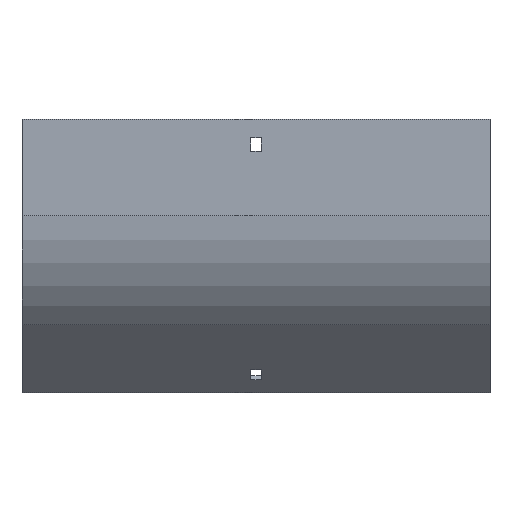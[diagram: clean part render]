
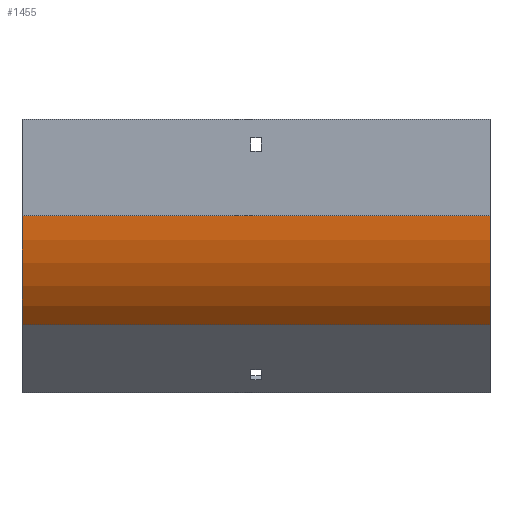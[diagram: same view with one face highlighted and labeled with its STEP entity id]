
A CAD part, front view. The second image highlights one B-rep face of the part: STEP entity #1455.
In plain terms, the highlighted cylindrical face has radius 100 mm (diameter 200 mm), a partial arc.
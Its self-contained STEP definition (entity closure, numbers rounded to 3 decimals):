
#116 = AXIS2_PLACEMENT_3D ( 'NONE', #1498, #1658, #1795 ) ;
#121 = ORIENTED_EDGE ( 'NONE', *, *, #342, .F. ) ;
#264 = CIRCLE ( 'NONE', #1364, 100. ) ;
#297 = LINE ( 'NONE', #1663, #1059 ) ;
#304 = CARTESIAN_POINT ( 'NONE',  ( 152., -49.711, -133.434 ) ) ;
#334 = CIRCLE ( 'NONE', #1918, 100. ) ;
#342 = EDGE_CURVE ( 'NONE', #1022, #564, #297, .T. ) ;
#422 = DIRECTION ( 'NONE',  ( -1., 0., 0. ) ) ;
#441 = EDGE_CURVE ( 'NONE', #739, #1022, #264, .T. ) ;
#489 = CARTESIAN_POINT ( 'NONE',  ( 152., 21., -62.723 ) ) ;
#523 = EDGE_LOOP ( 'NONE', ( #1606, #121, #540, #686 ) ) ;
#540 = ORIENTED_EDGE ( 'NONE', *, *, #441, .F. ) ;
#564 = VERTEX_POINT ( 'NONE', #1275 ) ;
#624 = CYLINDRICAL_SURFACE ( 'NONE', #116, 100. ) ;
#680 = DIRECTION ( 'NONE',  ( 1., 0., 0. ) ) ;
#686 = ORIENTED_EDGE ( 'NONE', *, *, #907, .T. ) ;
#739 = VERTEX_POINT ( 'NONE', #922 ) ;
#858 = VERTEX_POINT ( 'NONE', #1679 ) ;
#907 = EDGE_CURVE ( 'NONE', #739, #858, #1445, .T. ) ;
#922 = CARTESIAN_POINT ( 'NONE',  ( 152., -79., -62.723 ) ) ;
#1022 = VERTEX_POINT ( 'NONE', #304 ) ;
#1059 = VECTOR ( 'NONE', #422, 1000. ) ;
#1275 = CARTESIAN_POINT ( 'NONE',  ( -152., -49.711, -133.434 ) ) ;
#1303 = EDGE_CURVE ( 'NONE', #858, #564, #334, .T. ) ;
#1364 = AXIS2_PLACEMENT_3D ( 'NONE', #489, #1704, #1369 ) ;
#1369 = DIRECTION ( 'NONE',  ( 0., 0., 1. ) ) ;
#1435 = DIRECTION ( 'NONE',  ( -1., 0., 0. ) ) ;
#1445 = LINE ( 'NONE', #1737, #1715 ) ;
#1455 = ADVANCED_FACE ( 'NONE', ( #1815 ), #624, .T. ) ;
#1474 = CARTESIAN_POINT ( 'NONE',  ( -152., 21., -62.723 ) ) ;
#1498 = CARTESIAN_POINT ( 'NONE',  ( 152., 21., -62.723 ) ) ;
#1606 = ORIENTED_EDGE ( 'NONE', *, *, #1303, .T. ) ;
#1658 = DIRECTION ( 'NONE',  ( -1., 0., 0. ) ) ;
#1663 = CARTESIAN_POINT ( 'NONE',  ( 152., -49.711, -133.434 ) ) ;
#1679 = CARTESIAN_POINT ( 'NONE',  ( -152., -79., -62.723 ) ) ;
#1704 = DIRECTION ( 'NONE',  ( 1., 0., 0. ) ) ;
#1715 = VECTOR ( 'NONE', #1435, 1000. ) ;
#1727 = DIRECTION ( 'NONE',  ( 0., 0., 1. ) ) ;
#1737 = CARTESIAN_POINT ( 'NONE',  ( 152., -79., -62.723 ) ) ;
#1795 = DIRECTION ( 'NONE',  ( 0., 0., 1. ) ) ;
#1815 = FACE_OUTER_BOUND ( 'NONE', #523, .T. ) ;
#1918 = AXIS2_PLACEMENT_3D ( 'NONE', #1474, #680, #1727 ) ;
